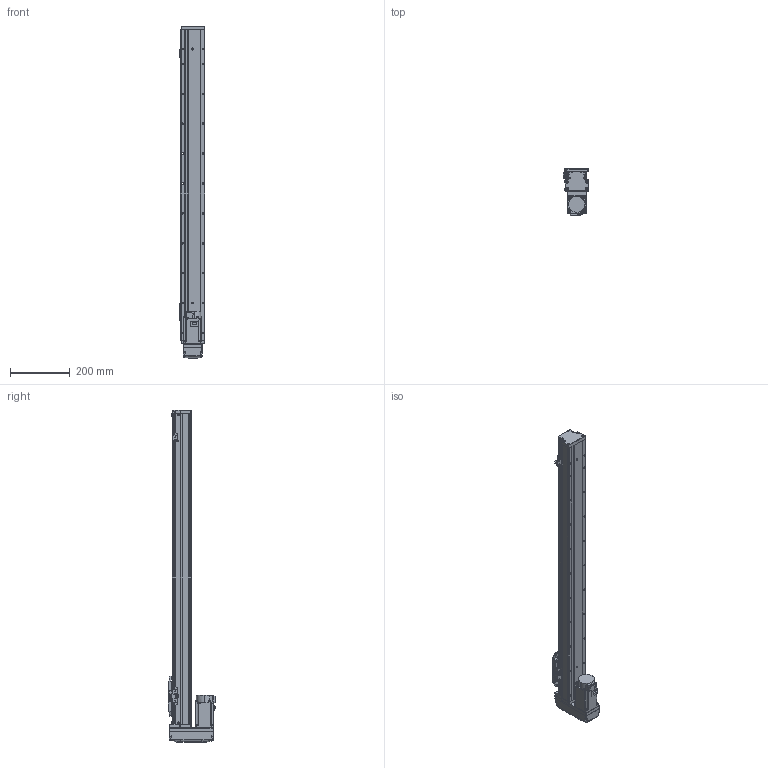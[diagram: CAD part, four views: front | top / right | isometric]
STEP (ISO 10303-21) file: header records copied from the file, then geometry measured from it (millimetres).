
FILE_DESCRIPTION (( 'STEP AP203' ), '1' );
FILE_NAME ('GTH8-850-BM-M20-C4.step', '2022-09-23T01:06:45', ( '微软用户' ), ( '微软中国' ), 'SwSTEP 2.0', 'SolidWorks 2020', '' );
FILE_SCHEMA (( 'CONFIG_CONTROL_DESIGN' ));
Length unit declared in the file: millimetre
Products named in the file (18): GTH8-850-BM-M20-C4; GBT 70.1-M3℅6; GTH80-003; GBT 70.1-M4×16; GTH80-004; GTH80-028; GTH80-006; GTH50-024; hg-kn43j_-s100_; GTH80-013; GTH50-023; CTHA86-015-1_CTHA86-015-2; GBT 70.3-M3℅6; GBT96.1-2002 3×0.8; CTHA86-033_M40B; GTH80-022; BTH-M3X5X6; GTH80-001_850
Assembly tree (57 placements, depth 2):
  GTH8-850-BM-M20-C4
    GTH80-001_850
    GTH80-003
    GTH80-004
    GTH80-006
    GTH80-013
    GBT 70.3-M3℅6  x4
    GTH80-022
    GBT 70.1-M3℅6  x14
    GBT 70.1-M4×16  x8
    GTH80-028  x2
    GTH50-024  x3
    GTH50-023  x3
    GBT96.1-2002 3×0.8  x6
    BTH-M3X5X6  x8
    hg-kn43j_-s100_
    CTHA86-015-1_CTHA86-015-2
    CTHA86-033_M40B
Bounding box: 86.9 x 160.3 x 1111 mm (x, y, z)
Volume: 5490836.8 mm3; surface area: 547481.9 mm2
Topology: 59 solids, 59 shells, 2252 faces, 5211 edges, 3195 vertices
Faces by surface type: plane 1187, cylinder 623, cone 260, torus 166, bspline 8, sphere 8
Entity records: 41366 total; most frequent: CARTESIAN_POINT 7265, DIRECTION 6733, ORIENTED_EDGE 6240, EDGE_CURVE 3120, AXIS2_PLACEMENT_3D 2361, LINE 2011, VECTOR 2011, VERTEX_POINT 1970
